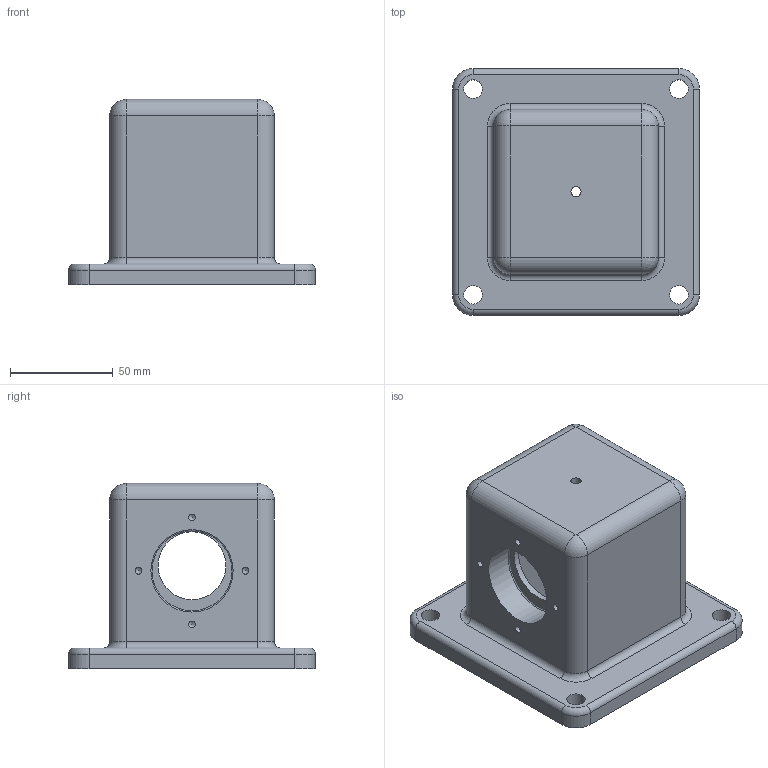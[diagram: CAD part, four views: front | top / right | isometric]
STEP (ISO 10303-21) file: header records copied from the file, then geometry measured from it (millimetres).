
FILE_DESCRIPTION(/* description */ (''),/* implementation_level */ '2;1');
FILE_NAME(/* name */ 'C:\Users\now\Desktop\박성원\381109E1003-본체.stp',/* time_stamp */ '2018-11-10T11:26:24+09:00',/* author */ ('now'),/* organization */ (''),/* preprocessor_version */ 'ST-DEVELOPER v15.6',/* originating_system */ 'Autodesk Inventor 2015',/* authorisation */ '');
FILE_SCHEMA (('AUTOMOTIVE_DESIGN { 1 0 10303 214 3 1 1 }'));
Length unit declared in the file: millimetre
Products named in the file (1): 381109E1003-본체
Bounding box: 120 x 120 x 90 mm (x, y, z)
Volume: 382836.9 mm3; surface area: 74265.3 mm2
Topology: 1 solids, 1 shells, 89 faces, 204 edges, 121 vertices
Faces by surface type: cylinder 45, plane 18, torus 10, cone 8, sphere 8
Full cylindrical faces by diameter (mm): 3.242 x8, 4.917 x1, 9 x4, 33 x2, 40 x2
Entity records: 2298 total; most frequent: DIRECTION 444, CARTESIAN_POINT 362, ORIENTED_EDGE 328, AXIS2_PLACEMENT_3D 190, EDGE_CURVE 164, EDGE_LOOP 134, VERTEX_POINT 108, CIRCLE 100
